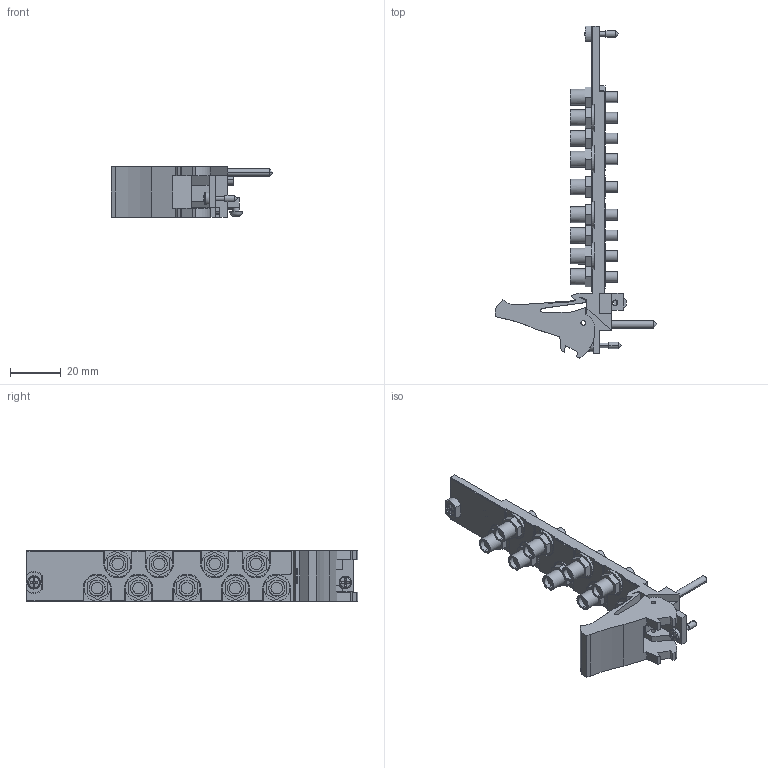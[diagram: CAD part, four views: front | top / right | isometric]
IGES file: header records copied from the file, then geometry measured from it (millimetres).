
Start section:  PTC IGES file: cu_pxi-2547.igs
Global section: file name: cu_pxi-2547.igs; native system: Pro/ENGINEER by Parametric Technology Corporation; preprocessor: 2006080; author: jjorden; organization: Unknown; date: 091006.100621; units: inch
Bounding box: 63.53 x 130.43 x 20.02 mm (x, y, z)
Surface area: 17892.8 mm2 (no closed solid volume)
Topology: 0 solids, 0 shells, 810 faces, 4122 edges, 4114 vertices
Faces by surface type: bspline 501, revolution 309
